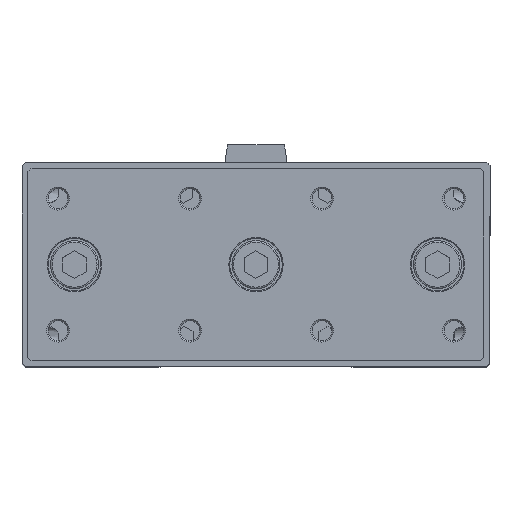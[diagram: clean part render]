
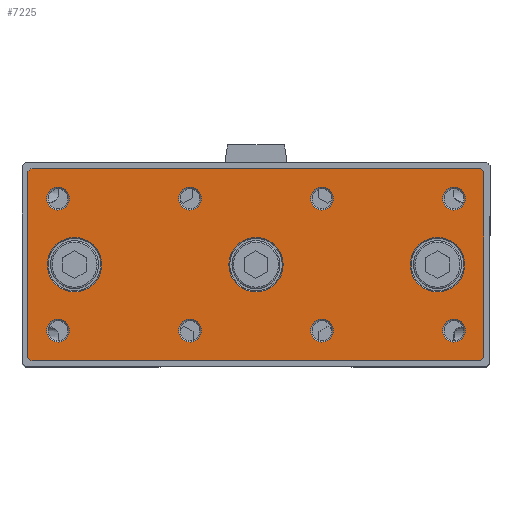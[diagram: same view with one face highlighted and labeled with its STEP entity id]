
A CAD part, top view. The second image highlights one B-rep face of the part: STEP entity #7225.
In plain terms, the highlighted planar face has unit normal (0, 0, 1).
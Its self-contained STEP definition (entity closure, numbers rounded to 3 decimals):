
#6983=CARTESIAN_POINT('',(-82.057,-30.206,156.6));
#6984=VERTEX_POINT('',#6983);
#6985=CARTESIAN_POINT('',(-83.057,-29.206,156.6));
#6986=VERTEX_POINT('',#6985);
#6987=CARTESIAN_POINT('',(-82.057,-30.206,156.6));
#6988=DIRECTION('',(-0.707,0.707,0.0));
#6989=VECTOR('',#6988,1.414);
#6990=LINE('',#6987,#6989);
#6991=EDGE_CURVE('',#6984,#6986,#6990,.T.);
#7024=CARTESIAN_POINT('',(-83.057,32.794,156.6));
#7025=VERTEX_POINT('',#7024);
#7026=CARTESIAN_POINT('',(-83.057,-29.206,156.6));
#7027=DIRECTION('',(0.0,1.0,0.0));
#7028=VECTOR('',#7027,62.);
#7029=LINE('',#7026,#7028);
#7030=EDGE_CURVE('',#6986,#7025,#7029,.T.);
#7049=CARTESIAN_POINT('',(-7.057,1.794,156.6));
#7050=DIRECTION('',(0.0,0.0,1.0));
#7051=DIRECTION('',(1.0,0.0,0.0));
#7052=AXIS2_PLACEMENT_3D('',#7049,#7050,#7051);
#7053=PLANE('',#7052);
#7054=ORIENTED_EDGE('',*,*,#6991,.F.);
#7055=CARTESIAN_POINT('',(67.943,-30.206,156.6));
#7056=VERTEX_POINT('',#7055);
#7057=CARTESIAN_POINT('',(67.943,-30.206,156.6));
#7058=DIRECTION('',(-1.0,0.0,0.0));
#7059=VECTOR('',#7058,150.0);
#7060=LINE('',#7057,#7059);
#7061=EDGE_CURVE('',#7056,#6984,#7060,.T.);
#7062=ORIENTED_EDGE('',*,*,#7061,.F.);
#7063=CARTESIAN_POINT('',(68.943,-29.206,156.6));
#7064=VERTEX_POINT('',#7063);
#7065=CARTESIAN_POINT('',(68.943,-29.206,156.6));
#7066=DIRECTION('',(-0.707,-0.707,0.0));
#7067=VECTOR('',#7066,1.414);
#7068=LINE('',#7065,#7067);
#7069=EDGE_CURVE('',#7064,#7056,#7068,.T.);
#7070=ORIENTED_EDGE('',*,*,#7069,.F.);
#7071=CARTESIAN_POINT('',(68.943,32.794,156.6));
#7072=VERTEX_POINT('',#7071);
#7073=CARTESIAN_POINT('',(68.943,32.794,156.6));
#7074=DIRECTION('',(0.0,-1.0,0.0));
#7075=VECTOR('',#7074,62.);
#7076=LINE('',#7073,#7075);
#7077=EDGE_CURVE('',#7072,#7064,#7076,.T.);
#7078=ORIENTED_EDGE('',*,*,#7077,.F.);
#7079=CARTESIAN_POINT('',(67.943,33.794,156.6));
#7080=VERTEX_POINT('',#7079);
#7081=CARTESIAN_POINT('',(67.943,33.794,156.6));
#7082=DIRECTION('',(0.707,-0.707,0.0));
#7083=VECTOR('',#7082,1.414);
#7084=LINE('',#7081,#7083);
#7085=EDGE_CURVE('',#7080,#7072,#7084,.T.);
#7086=ORIENTED_EDGE('',*,*,#7085,.F.);
#7087=CARTESIAN_POINT('',(-82.057,33.794,156.6));
#7088=VERTEX_POINT('',#7087);
#7089=CARTESIAN_POINT('',(-82.057,33.794,156.6));
#7090=DIRECTION('',(1.0,0.0,0.0));
#7091=VECTOR('',#7090,150.);
#7092=LINE('',#7089,#7091);
#7093=EDGE_CURVE('',#7088,#7080,#7092,.T.);
#7094=ORIENTED_EDGE('',*,*,#7093,.F.);
#7095=CARTESIAN_POINT('',(-83.057,32.794,156.6));
#7096=DIRECTION('',(0.707,0.707,0.0));
#7097=VECTOR('',#7096,1.414);
#7098=LINE('',#7095,#7097);
#7099=EDGE_CURVE('',#7025,#7088,#7098,.T.);
#7100=ORIENTED_EDGE('',*,*,#7099,.F.);
#7101=ORIENTED_EDGE('',*,*,#7030,.F.);
#7102=EDGE_LOOP('',(#7054,#7062,#7070,#7078,#7086,#7094,#7100,#7101));
#7103=FACE_OUTER_BOUND('',#7102,.T.);
#7104=CARTESIAN_POINT('',(-58.507,1.794,156.6));
#7105=VERTEX_POINT('',#7104);
#7106=CARTESIAN_POINT('',(-67.557,1.794,156.6));
#7107=DIRECTION('',(0.0,0.0,1.0));
#7108=DIRECTION('',(-1.0,0.0,0.0));
#7109=AXIS2_PLACEMENT_3D('',#7106,#7107,#7108);
#7110=CIRCLE('',#7109,9.05);
#7111=EDGE_CURVE('',#7105,#7105,#7110,.T.);
#7112=ORIENTED_EDGE('',*,*,#7111,.F.);
#7113=EDGE_LOOP('',(#7112));
#7114=FACE_BOUND('',#7113,.T.);
#7115=CARTESIAN_POINT('',(62.766,-20.206,156.6));
#7116=VERTEX_POINT('',#7115);
#7117=CARTESIAN_POINT('',(58.943,-20.206,156.6));
#7118=DIRECTION('',(0.0,0.0,1.0));
#7119=DIRECTION('',(-1.0,0.0,0.0));
#7120=AXIS2_PLACEMENT_3D('',#7117,#7118,#7119);
#7121=CIRCLE('',#7120,3.823);
#7122=EDGE_CURVE('',#7116,#7116,#7121,.T.);
#7123=ORIENTED_EDGE('',*,*,#7122,.F.);
#7124=EDGE_LOOP('',(#7123));
#7125=FACE_BOUND('',#7124,.T.);
#7126=CARTESIAN_POINT('',(-69.234,-20.206,156.6));
#7127=VERTEX_POINT('',#7126);
#7128=CARTESIAN_POINT('',(-73.057,-20.206,156.6));
#7129=DIRECTION('',(0.0,0.0,1.0));
#7130=DIRECTION('',(-1.0,0.0,0.0));
#7131=AXIS2_PLACEMENT_3D('',#7128,#7129,#7130);
#7132=CIRCLE('',#7131,3.823);
#7133=EDGE_CURVE('',#7127,#7127,#7132,.T.);
#7134=ORIENTED_EDGE('',*,*,#7133,.F.);
#7135=EDGE_LOOP('',(#7134));
#7136=FACE_BOUND('',#7135,.T.);
#7137=CARTESIAN_POINT('',(62.766,23.794,156.6));
#7138=VERTEX_POINT('',#7137);
#7139=CARTESIAN_POINT('',(58.943,23.794,156.6));
#7140=DIRECTION('',(0.0,0.0,1.0));
#7141=DIRECTION('',(-1.0,0.0,0.0));
#7142=AXIS2_PLACEMENT_3D('',#7139,#7140,#7141);
#7143=CIRCLE('',#7142,3.823);
#7144=EDGE_CURVE('',#7138,#7138,#7143,.T.);
#7145=ORIENTED_EDGE('',*,*,#7144,.F.);
#7146=EDGE_LOOP('',(#7145));
#7147=FACE_BOUND('',#7146,.T.);
#7148=CARTESIAN_POINT('',(-69.234,23.794,156.6));
#7149=VERTEX_POINT('',#7148);
#7150=CARTESIAN_POINT('',(-73.057,23.794,156.6));
#7151=DIRECTION('',(0.0,0.0,1.0));
#7152=DIRECTION('',(-1.0,0.0,0.0));
#7153=AXIS2_PLACEMENT_3D('',#7150,#7151,#7152);
#7154=CIRCLE('',#7153,3.823);
#7155=EDGE_CURVE('',#7149,#7149,#7154,.T.);
#7156=ORIENTED_EDGE('',*,*,#7155,.F.);
#7157=EDGE_LOOP('',(#7156));
#7158=FACE_BOUND('',#7157,.T.);
#7159=CARTESIAN_POINT('',(18.766,-20.206,156.6));
#7160=VERTEX_POINT('',#7159);
#7161=CARTESIAN_POINT('',(14.943,-20.206,156.6));
#7162=DIRECTION('',(0.0,0.0,1.0));
#7163=DIRECTION('',(-1.0,0.0,0.0));
#7164=AXIS2_PLACEMENT_3D('',#7161,#7162,#7163);
#7165=CIRCLE('',#7164,3.824);
#7166=EDGE_CURVE('',#7160,#7160,#7165,.T.);
#7167=ORIENTED_EDGE('',*,*,#7166,.F.);
#7168=EDGE_LOOP('',(#7167));
#7169=FACE_BOUND('',#7168,.T.);
#7170=CARTESIAN_POINT('',(-25.234,-20.206,156.6));
#7171=VERTEX_POINT('',#7170);
#7172=CARTESIAN_POINT('',(-29.057,-20.206,156.6));
#7173=DIRECTION('',(0.0,0.0,1.0));
#7174=DIRECTION('',(-1.0,0.0,0.0));
#7175=AXIS2_PLACEMENT_3D('',#7172,#7173,#7174);
#7176=CIRCLE('',#7175,3.823);
#7177=EDGE_CURVE('',#7171,#7171,#7176,.T.);
#7178=ORIENTED_EDGE('',*,*,#7177,.F.);
#7179=EDGE_LOOP('',(#7178));
#7180=FACE_BOUND('',#7179,.T.);
#7181=CARTESIAN_POINT('',(18.766,23.794,156.6));
#7182=VERTEX_POINT('',#7181);
#7183=CARTESIAN_POINT('',(14.943,23.794,156.6));
#7184=DIRECTION('',(0.0,0.0,1.0));
#7185=DIRECTION('',(-1.0,0.0,0.0));
#7186=AXIS2_PLACEMENT_3D('',#7183,#7184,#7185);
#7187=CIRCLE('',#7186,3.824);
#7188=EDGE_CURVE('',#7182,#7182,#7187,.T.);
#7189=ORIENTED_EDGE('',*,*,#7188,.F.);
#7190=EDGE_LOOP('',(#7189));
#7191=FACE_BOUND('',#7190,.T.);
#7192=CARTESIAN_POINT('',(-25.234,23.794,156.6));
#7193=VERTEX_POINT('',#7192);
#7194=CARTESIAN_POINT('',(-29.057,23.794,156.6));
#7195=DIRECTION('',(0.0,0.0,1.0));
#7196=DIRECTION('',(-1.0,0.0,0.0));
#7197=AXIS2_PLACEMENT_3D('',#7194,#7195,#7196);
#7198=CIRCLE('',#7197,3.823);
#7199=EDGE_CURVE('',#7193,#7193,#7198,.T.);
#7200=ORIENTED_EDGE('',*,*,#7199,.F.);
#7201=EDGE_LOOP('',(#7200));
#7202=FACE_BOUND('',#7201,.T.);
#7203=CARTESIAN_POINT('',(62.493,1.794,156.6));
#7204=VERTEX_POINT('',#7203);
#7205=CARTESIAN_POINT('',(53.443,1.794,156.6));
#7206=DIRECTION('',(0.0,0.0,1.0));
#7207=DIRECTION('',(-1.0,0.0,0.0));
#7208=AXIS2_PLACEMENT_3D('',#7205,#7206,#7207);
#7209=CIRCLE('',#7208,9.05);
#7210=EDGE_CURVE('',#7204,#7204,#7209,.T.);
#7211=ORIENTED_EDGE('',*,*,#7210,.F.);
#7212=EDGE_LOOP('',(#7211));
#7213=FACE_BOUND('',#7212,.T.);
#7214=CARTESIAN_POINT('',(1.993,1.794,156.6));
#7215=VERTEX_POINT('',#7214);
#7216=CARTESIAN_POINT('',(-7.057,1.794,156.6));
#7217=DIRECTION('',(0.0,0.0,1.0));
#7218=DIRECTION('',(-1.0,0.0,0.0));
#7219=AXIS2_PLACEMENT_3D('',#7216,#7217,#7218);
#7220=CIRCLE('',#7219,9.05);
#7221=EDGE_CURVE('',#7215,#7215,#7220,.T.);
#7222=ORIENTED_EDGE('',*,*,#7221,.F.);
#7223=EDGE_LOOP('',(#7222));
#7224=FACE_BOUND('',#7223,.T.);
#7225=ADVANCED_FACE('',(#7103,#7114,#7125,#7136,#7147,#7158,#7169,#7180,#7191,#7202,#7213,#7224),#7053,.T.);
